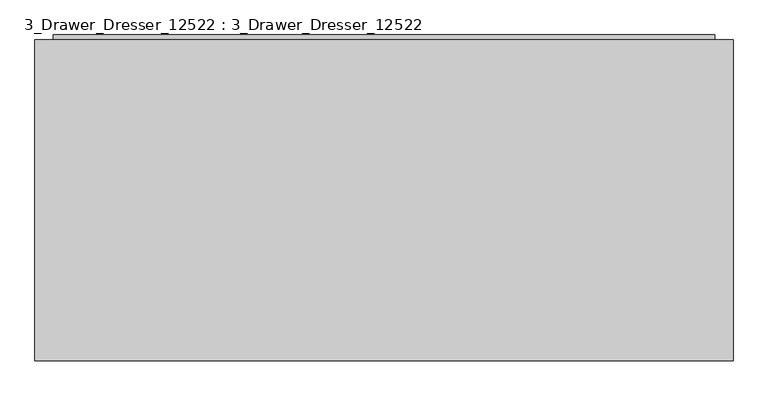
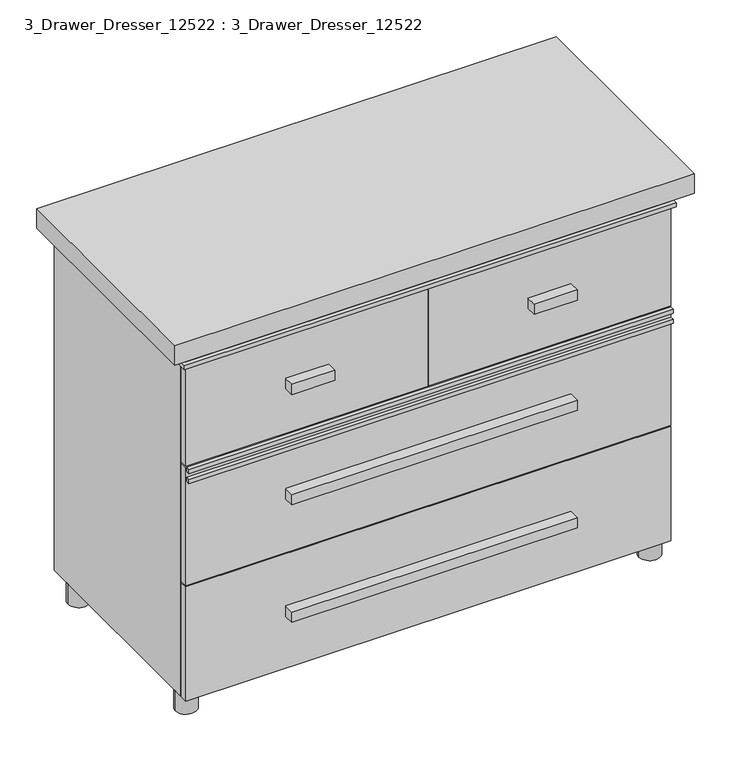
"""IFC4 building model written with IfcOpenShell, lengths in millimetres: furniture geometry, 3_Drawer_Dresser_12522 : 3_Drawer_Dresser_12522."""

from ifc_helpers import new_model, si_unit, point, frame, frame_2d, origin, origin_with_axes, place, context, project, spatial, polyline, circle_curve, trimmed, segment, composite_curve, outline, extrude, source, transform, mapped, element, save


def furniture_3_drawer_dresser_12522_3_drawer_dresser_12522_35cc0b9b(model_context):
    return source(origin(), model_context, "Body", "SweptSolid", [
        extrude(outline(composite_curve([segment(trimmed(circle_curve(frame_2d((25.0, -78.475)), 25.0), [point((0.0, -78.475))], [point((50.0, -78.475))], False, "CARTESIAN"), True, "CONTINUOUS"), segment(trimmed(circle_curve(frame_2d((25.0, -78.475)), 25.0), [point((50.0, -78.475))], [point((0.0, -78.475))], False, "CARTESIAN"), True, "CONTINUOUS")], self_intersect=False)), origin_with_axes(), (0.0, 0.0, 1.0), 50.0),
        extrude(outline(composite_curve([segment(trimmed(circle_curve(frame_2d((25.0, -516.475)), 25.0), [point((0.0, -516.475))], [point((50.0, -516.475))], False, "CARTESIAN"), True, "CONTINUOUS"), segment(trimmed(circle_curve(frame_2d((25.0, -516.475)), 25.0), [point((50.0, -516.475))], [point((0.0, -516.475))], False, "CARTESIAN"), True, "CONTINUOUS")], self_intersect=False)), origin_with_axes(), (0.0, 0.0, 1.0), 50.0),
        extrude(outline(polyline([(1151.125, -567.725), (-8.125, -567.725), (-8.125, -13.475), (1151.125, -13.475), (1151.125, -567.725)]), holes=[polyline([(1141.125, -23.475), (1.875, -23.475), (1.875, -557.725), (1141.125, -557.725), (1141.125, -23.475)])]), frame((0.0, 0.0, 884.1034793), z_axis=(0.0, 0.0, 1.0), x_axis=(1.0, 0.0, 0.0)), (0.0, 0.0, 1.0), 10.0),
        extrude(outline(polyline([(908.05, -585.0), (234.95, -585.0), (234.95, -559.6), (908.05, -559.6), (908.05, -585.0)])), frame((0.0, 0.0, 179.7256524), z_axis=(0.0, 0.0, 1.0), x_axis=(1.0, 0.0, 0.0)), (0.0, 0.0, 1.0), 25.4),
        extrude(outline(polyline([(908.05, -585.0), (234.95, -585.0), (234.95, -559.6), (908.05, -559.6), (908.05, -585.0)])), frame((0.0, 0.0, 472.5144571), z_axis=(0.0, 0.0, 1.0), x_axis=(1.0, 0.0, 0.0)), (0.0, 0.0, 1.0), 25.4),
        extrude(outline(polyline([(1143.0, -569.6), (1.5875, -569.6), (1.5875, -559.6), (1143.0, -559.6), (1143.0, -569.6)])), frame((0.0, 0.0, 597.4026095), z_axis=(0.0, 0.0, 1.0), x_axis=(1.0, 0.0, 0.0)), (0.0, 0.0, 1.0), 10.0),
        extrude(outline(polyline([(1143.0, -569.6), (1.5875, -569.6), (1.5875, -559.6), (1143.0, -559.6), (1143.0, -569.6)])), frame((0.0, 0.0, 622.4026095), z_axis=(0.0, 0.0, 1.0), x_axis=(1.0, 0.0, 0.0)), (0.0, 0.0, 1.0), 10.0),
        extrude(outline(polyline([(0.0, -557.725), (0.0, -21.6), (1143.0, -21.6), (1143.0, -557.725), (0.0, -557.725)])), frame((0.0, 0.0, 884.1034793), z_axis=(0.0, 0.0, 1.0), x_axis=(1.0, 0.0, 0.0)), (0.0, 0.0, 1.0), 32.5),
        extrude(outline(polyline([(908.05, -585.0), (806.45, -585.0), (806.45, -559.6), (908.05, -559.6), (908.05, -585.0)])), frame((0.0, 0.0, 747.1405444), z_axis=(0.0, 0.0, 1.0), x_axis=(1.0, 0.0, 0.0)), (0.0, 0.0, 1.0), 25.4),
        extrude(outline(polyline([(336.55, -585.0), (234.95, -585.0), (234.95, -559.6), (336.55, -559.6), (336.55, -585.0)])), frame((0.0, 0.0, 747.1405444), z_axis=(0.0, 0.0, 1.0), x_axis=(1.0, 0.0, 0.0)), (0.0, 0.0, 1.0), 25.4),
        extrude(outline(polyline([(569.9125, -559.6), (0.0, -559.6), (0.0, -539.6), (569.9125, -539.6), (569.9125, -559.6)])), frame((0.0, 0.0, 635.5776095), z_axis=(0.0, 0.0, 1.0), x_axis=(1.0, 0.0, 0.0)), (0.0, 0.0, 1.0), 248.5258698),
        extrude(outline(polyline([(1143.0, -559.6), (573.0875, -559.6), (573.0875, -539.6), (1143.0, -539.6), (1143.0, -559.6)])), frame((0.0, 0.0, 635.5776095), z_axis=(0.0, 0.0, 1.0), x_axis=(1.0, 0.0, 0.0)), (0.0, 0.0, 1.0), 248.5258698),
        extrude(outline(polyline([(1143.0, -559.6), (0.0, -559.6), (0.0, -539.6), (1143.0, -539.6), (1143.0, -559.6)])), frame((0.0, 0.0, 338.0263047), z_axis=(0.0, 0.0, 1.0), x_axis=(1.0, 0.0, 0.0)), (0.0, 0.0, 1.0), 294.3763047),
        extrude(outline(polyline([(1143.0, -559.6), (0.0, -559.6), (0.0, -539.6), (1143.0, -539.6), (1143.0, -559.6)])), frame((0.0, 0.0, 50.0), z_axis=(0.0, 0.0, 1.0), x_axis=(1.0, 0.0, 0.0)), (0.0, 0.0, 1.0), 284.8513047),
        extrude(outline(polyline([(0.0, -539.6), (0.0, -21.6), (1143.0, -21.6), (1143.0, -539.6), (0.0, -539.6)])), frame((0.0, 0.0, 50.0), z_axis=(0.0, 0.0, 1.0), x_axis=(1.0, 0.0, 0.0)), (0.0, 0.0, 1.0), 834.1034793),
        extrude(outline(composite_curve([segment(trimmed(circle_curve(frame_2d((1118.0, -78.475)), 25.0), [point((1093.0, -78.475))], [point((1143.0, -78.475))], False, "CARTESIAN"), True, "CONTINUOUS"), segment(trimmed(circle_curve(frame_2d((1118.0, -78.475)), 25.0), [point((1143.0, -78.475))], [point((1093.0, -78.475))], False, "CARTESIAN"), True, "CONTINUOUS")], self_intersect=False)), origin_with_axes(), (0.0, 0.0, 1.0), 50.0),
        extrude(outline(polyline([(1151.125, -567.725), (-8.125, -567.725), (-8.125, -13.475), (1151.125, -13.475), (1151.125, -567.725)]), holes=[polyline([(1141.125, -23.475), (1.875, -23.475), (1.875, -557.725), (1141.125, -557.725), (1141.125, -23.475)])]), frame((0.0, 0.0, 906.6034793), z_axis=(0.0, 0.0, 1.0), x_axis=(1.0, 0.0, 0.0)), (0.0, 0.0, 1.0), 10.0),
        extrude(outline(polyline([(-40.5285644, -585.0), (-40.5285644, -21.6), (1183.5285644, -21.6), (1183.5285644, -585.0), (-40.5285644, -585.0)])), frame((0.0, 0.0, 916.6034793), z_axis=(0.0, 0.0, 1.0), x_axis=(1.0, 0.0, 0.0)), (0.0, 0.0, 1.0), 48.5965207),
        extrude(outline(composite_curve([segment(trimmed(circle_curve(frame_2d((1118.0, -516.475)), 25.0), [point((1093.0, -516.475))], [point((1143.0, -516.475))], False, "CARTESIAN"), True, "CONTINUOUS"), segment(trimmed(circle_curve(frame_2d((1118.0, -516.475)), 25.0), [point((1143.0, -516.475))], [point((1093.0, -516.475))], False, "CARTESIAN"), True, "CONTINUOUS")], self_intersect=False)), origin_with_axes(), (0.0, 0.0, 1.0), 50.0),
    ])


if __name__ == "__main__":
    model = new_model("IFC4")
    model_context = context("Model", 3, world=origin())
    ifc_project = project(units=[si_unit("LENGTHUNIT", "METRE", prefix="MILLI")], contexts=[model_context])
    site = spatial("IfcSite", under=ifc_project)
    building = spatial("IfcBuilding", under=site)
    placement = place(None, origin())
    furniture_3_drawer_dresser_12522_3_drawer_dresser_12522_shape = furniture_3_drawer_dresser_12522_3_drawer_dresser_12522_35cc0b9b(model_context)
    element("IfcFurniture", 1, ObjectType="3_Drawer_Dresser_12522 : 3_Drawer_Dresser_12522", at=placement, inside=building, context=model_context, shape_type="MappedRepresentation", body=[
        mapped(furniture_3_drawer_dresser_12522_3_drawer_dresser_12522_shape, transform((0.0, 0.0, 0.0), x_axis=(1.0, 0.0, 0.0), y_axis=(0.0, 1.0, 0.0), z_axis=(0.0, 0.0, 1.0))),
    ])
    save(model, "model.ifc")
